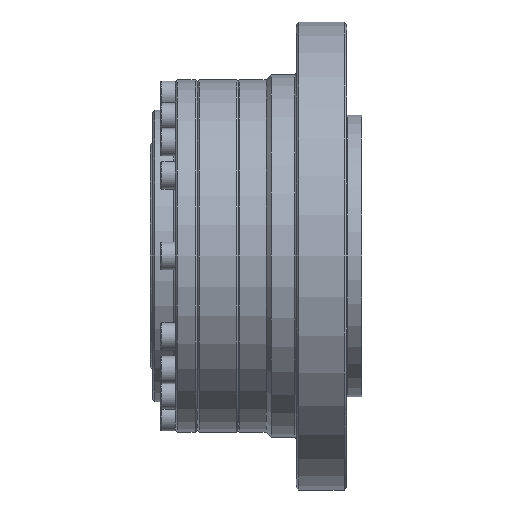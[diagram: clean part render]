
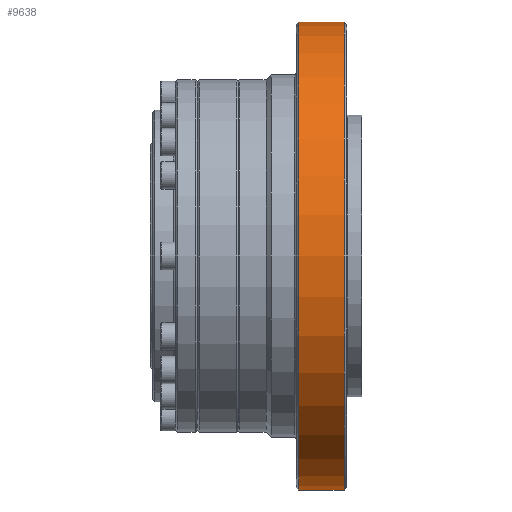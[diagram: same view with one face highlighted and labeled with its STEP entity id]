
A CAD part, front view. The second image highlights one B-rep face of the part: STEP entity #9638.
In plain terms, the highlighted cylindrical face has radius 46.5 mm (diameter 93 mm), a full revolution.
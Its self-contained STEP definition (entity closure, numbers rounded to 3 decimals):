
#190 = VERTEX_POINT ( 'NONE', #22860 ) ;
#201 = DIRECTION ( 'NONE',  ( 0., 0., 1. ) ) ;
#1062 = DIRECTION ( 'NONE',  ( 0., 0., 1. ) ) ;
#1082 = FACE_OUTER_BOUND ( 'NONE', #17619, .T. ) ;
#1201 = CYLINDRICAL_SURFACE ( 'NONE', #4710, 46.5 ) ;
#4710 = AXIS2_PLACEMENT_3D ( 'NONE', #11388, #26197, #17612 ) ;
#4904 = CIRCLE ( 'NONE', #8385, 46.5 ) ;
#5486 = CARTESIAN_POINT ( 'NONE',  ( 3., 0., 46.5 ) ) ;
#8385 = AXIS2_PLACEMENT_3D ( 'NONE', #12549, #20702, #201 ) ;
#9026 = EDGE_LOOP ( 'NONE', ( #22045 ) ) ;
#9638 = ADVANCED_FACE ( 'NONE', ( #1082, #18010 ), #1201, .T. ) ;
#10525 = AXIS2_PLACEMENT_3D ( 'NONE', #17463, #23719, #1062 ) ;
#10590 = CIRCLE ( 'NONE', #10525, 46.5 ) ;
#11388 = CARTESIAN_POINT ( 'NONE',  ( -11.3, 0., 0. ) ) ;
#12549 = CARTESIAN_POINT ( 'NONE',  ( 3., 0., 0. ) ) ;
#17463 = CARTESIAN_POINT ( 'NONE',  ( 12., 0., 0. ) ) ;
#17612 = DIRECTION ( 'NONE',  ( 0., 0., 1. ) ) ;
#17619 = EDGE_LOOP ( 'NONE', ( #24291 ) ) ;
#18010 = FACE_OUTER_BOUND ( 'NONE', #9026, .T. ) ;
#19799 = EDGE_CURVE ( 'NONE', #25652, #25652, #4904, .T. ) ;
#20702 = DIRECTION ( 'NONE',  ( -1., 0., 0. ) ) ;
#20738 = EDGE_CURVE ( 'NONE', #190, #190, #10590, .T. ) ;
#22045 = ORIENTED_EDGE ( 'NONE', *, *, #20738, .T. ) ;
#22860 = CARTESIAN_POINT ( 'NONE',  ( 12., 0., 46.5 ) ) ;
#23719 = DIRECTION ( 'NONE',  ( -1., 0., 0. ) ) ;
#24291 = ORIENTED_EDGE ( 'NONE', *, *, #19799, .F. ) ;
#25652 = VERTEX_POINT ( 'NONE', #5486 ) ;
#26197 = DIRECTION ( 'NONE',  ( -1., 0., 0. ) ) ;
